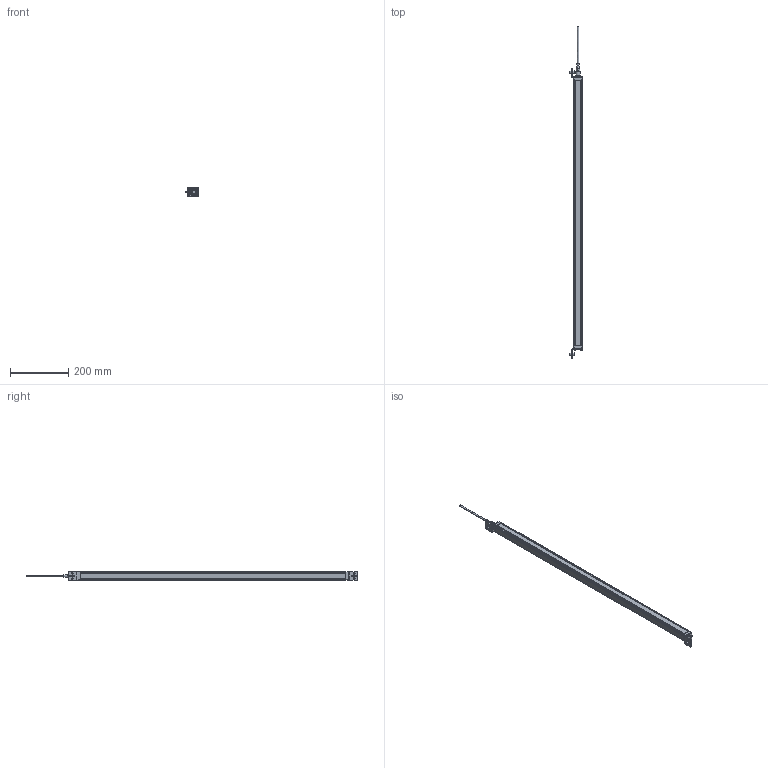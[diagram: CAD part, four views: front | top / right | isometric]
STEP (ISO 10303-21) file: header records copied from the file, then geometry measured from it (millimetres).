
FILE_DESCRIPTION(/* description */ (''),/* implementation_level */ '2;1');
FILE_NAME(/* name */ 'QE46-20-900.stp',/* time_stamp */ '2023-07-18T20:26:05+08:00',/* author */ (''),/* organization */ (''),/* preprocessor_version */ 'ST-DEVELOPER v14',/* originating_system */ 'SIEMENS PLM Software NX 8.0',/* authorisation */ '');
FILE_SCHEMA (('CONFIG_CONTROL_DESIGN'));
Products named in the file (1): QE44-20-860
Bounding box: 44.2 x 1138.8 x 30 mm (x, y, z)
Volume: 757506.8 mm3; surface area: 170506.3 mm2
Topology: 25 solids, 25 shells, 615 faces, 1569 edges, 1039 vertices
Faces by surface type: plane 335, cylinder 196, bspline 57, cone 18, sphere 5, torus 4
Full cylindrical faces by diameter (mm): 0.7 x2, 1 x5, 2 x5, 2.2 x8, 3.6 x8, 4 x4, 5.5 x12, 6 x2, 7 x2, 8 x1, 9.04 x1, 9.1 x1, 10 x3, 10.8 x1, 11 x2, 11.85 x1, 11.9 x1, 14.5 x1, 15 x2, 15.2 x2
Entity records: 41715 total; most frequent: CARTESIAN_POINT 27549, ORIENTED_EDGE 2832, DIRECTION 2774, EDGE_CURVE 1416, AXIS2_PLACEMENT_3D 1007, VERTEX_POINT 983, EDGE_LOOP 813, LINE 760
